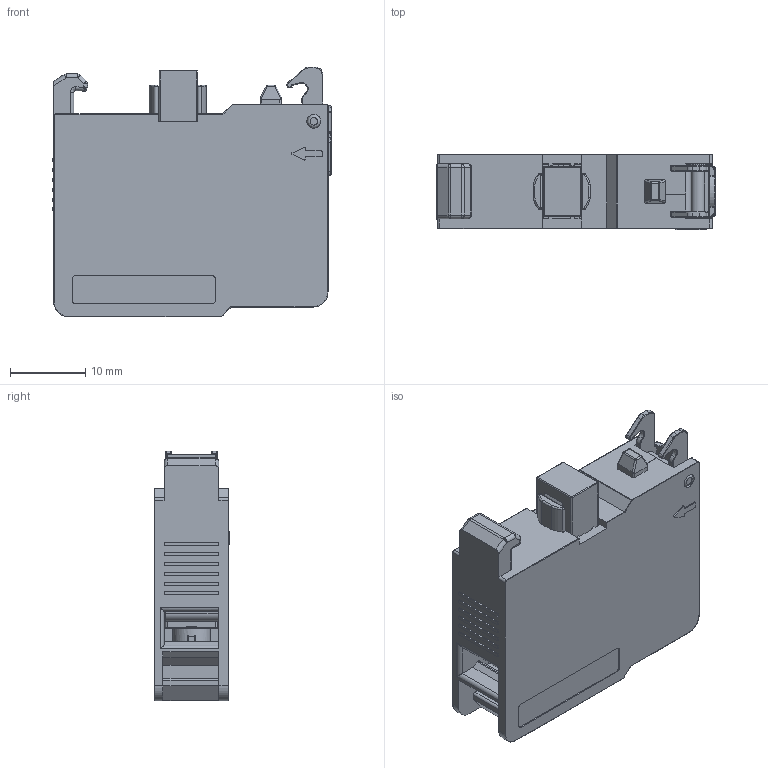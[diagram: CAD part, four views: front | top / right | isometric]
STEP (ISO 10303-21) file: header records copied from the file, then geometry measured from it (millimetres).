
FILE_DESCRIPTION(/* description */ (''),/* implementation_level */ '2;1');
FILE_NAME(/* name */ '22SA2-NC.stp',/* time_stamp */ '2024-05-17T16:03:15+08:00',/* author */ (''),/* organization */ (''),/* preprocessor_version */ 'ST-DEVELOPER v16',/* originating_system */ 'SIEMENS PLM Software NX 10.0',/* authorisation */ '');
FILE_SCHEMA (('AUTOMOTIVE_DESIGN { 1 0 10303 214 3 1 1 1 }'));
Products named in the file (1): Admi20CC3240ludp
Bounding box: 37.2 x 10.05 x 33.2 mm (x, y, z)
Volume: 5794 mm3; surface area: 9605.8 mm2
Topology: 1 solids, 9 shells, 1532 faces, 4129 edges, 2603 vertices
Faces by surface type: plane 817, cylinder 385, extrusion 131, revolution 110, bspline 64, cone 22, sphere 2, torus 1
Full cylindrical faces by diameter (mm): 1.2 x2, 1.45 x2, 1.5 x2, 1.75 x2, 1.8 x3, 1.85 x1, 1.95 x2, 2.1 x1, 2.12 x2, 2.15 x2, 2.2 x2, 2.4 x1, 3 x2, 4.3 x2, 4.98 x2, 5.02 x2, 6 x2
Entity records: 51234 total; most frequent: CARTESIAN_POINT 14422, ORIENTED_EDGE 8130, DIRECTION 6991, EDGE_CURVE 4065, VECTOR 2633, VERTEX_POINT 2585, LINE 2502, AXIS2_PLACEMENT_3D 2124
